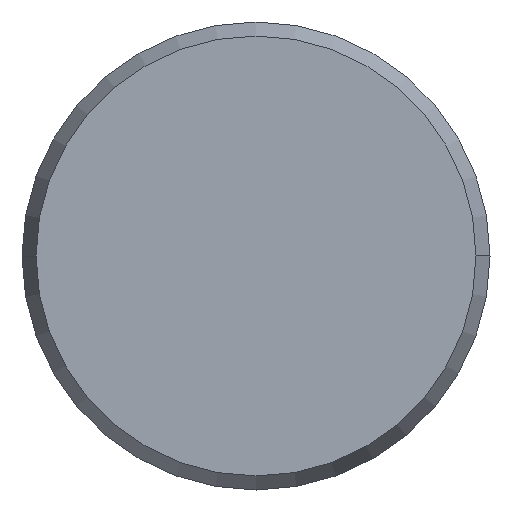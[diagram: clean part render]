
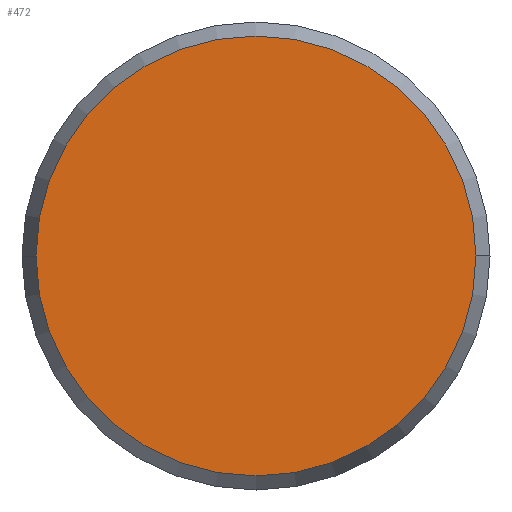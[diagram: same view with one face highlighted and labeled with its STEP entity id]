
A CAD part, front view. The second image highlights one B-rep face of the part: STEP entity #472.
In plain terms, the highlighted planar face has unit normal (0, -1, 0).
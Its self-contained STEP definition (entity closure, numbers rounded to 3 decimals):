
#321=CARTESIAN_POINT('',(0.,0.,0.));
#322=DIRECTION('',(0.,1.,0.));
#323=DIRECTION('',(1.,0.,0.));
#324=AXIS2_PLACEMENT_3D('',#321,#322,#323);
#326=CARTESIAN_POINT('',(0.,0.,0.));
#327=DIRECTION('',(0.,1.,0.));
#328=DIRECTION('',(0.,0.,-1.));
#329=AXIS2_PLACEMENT_3D('',#326,#327,#328);
#331=CARTESIAN_POINT('',(0.,0.,0.));
#332=DIRECTION('',(0.,1.,0.));
#333=DIRECTION('',(-1.,0.,0.));
#334=AXIS2_PLACEMENT_3D('',#331,#332,#333);
#336=CARTESIAN_POINT('',(0.,0.,0.));
#337=DIRECTION('',(0.,1.,0.));
#338=DIRECTION('',(0.,0.,1.));
#339=AXIS2_PLACEMENT_3D('',#336,#337,#338);
#425=CARTESIAN_POINT('',(0.,0.,-0.94));
#426=CARTESIAN_POINT('',(-0.94,0.,0.));
#427=VERTEX_POINT('',#425);
#428=VERTEX_POINT('',#426);
#429=CARTESIAN_POINT('',(0.94,0.,0.));
#430=VERTEX_POINT('',#429);
#431=CARTESIAN_POINT('',(0.,0.,0.94));
#432=VERTEX_POINT('',#431);
#457=CARTESIAN_POINT('',(0.,0.,0.));
#458=DIRECTION('',(0.,1.,0.));
#459=DIRECTION('',(1.,0.,0.));
#460=AXIS2_PLACEMENT_3D('',#457,#458,#459);
#461=PLANE('',#460);
#463=ORIENTED_EDGE('',*,*,#462,.T.);
#465=ORIENTED_EDGE('',*,*,#464,.T.);
#467=ORIENTED_EDGE('',*,*,#466,.T.);
#469=ORIENTED_EDGE('',*,*,#468,.T.);
#470=EDGE_LOOP('',(#463,#465,#467,#469));
#471=FACE_OUTER_BOUND('',#470,.F.);
#472=ADVANCED_FACE('',(#471),#461,.F.);
#325=CIRCLE('',#324,0.94);
#330=CIRCLE('',#329,0.94);
#335=CIRCLE('',#334,0.94);
#340=CIRCLE('',#339,0.94);
#462=EDGE_CURVE('',#430,#427,#325,.T.);
#464=EDGE_CURVE('',#427,#428,#330,.T.);
#466=EDGE_CURVE('',#428,#432,#335,.T.);
#468=EDGE_CURVE('',#432,#430,#340,.T.);
